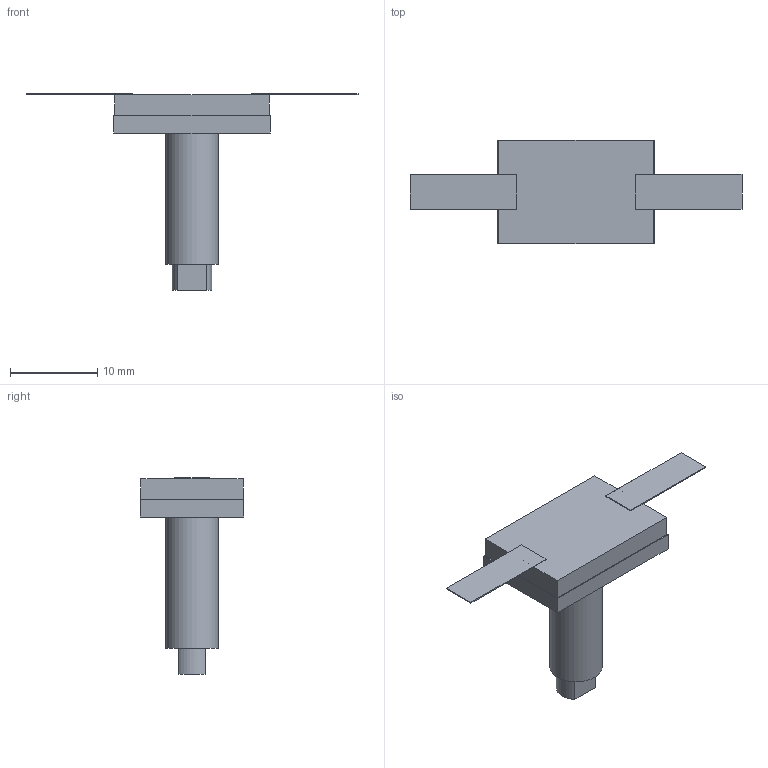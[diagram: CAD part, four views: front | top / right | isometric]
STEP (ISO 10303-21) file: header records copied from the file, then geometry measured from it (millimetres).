
FILE_DESCRIPTION(('STEP AP203'), '1');
FILE_NAME('Ð1-3-50', '', ('UNSPECIFIED'), ('UNSPECIFIED'), 'ASCON STEP Converter 1.6', 'ASCON Math Kernel', '');
FILE_SCHEMA(('CONFIG_CONTROL_DESIGN'));
Length unit declared in the file: millimetre
Bounding box: 38 x 11.9 x 22.5 mm (x, y, z)
Volume: 1393.4 mm3; surface area: 1211.3 mm2
Topology: 1 solids, 2 shells, 49 faces, 122 edges, 80 vertices
Faces by surface type: plane 42, cylinder 7
Full cylindrical faces by diameter (mm): 6 x1
Entity records: 1871 total; most frequent: CARTESIAN_POINT 251, ORIENTED_EDGE 242, DIRECTION 235, EDGE_CURVE 121, LINE 107, VECTOR 107, VERTEX_POINT 80, AXIS2_PLACEMENT_3D 64
